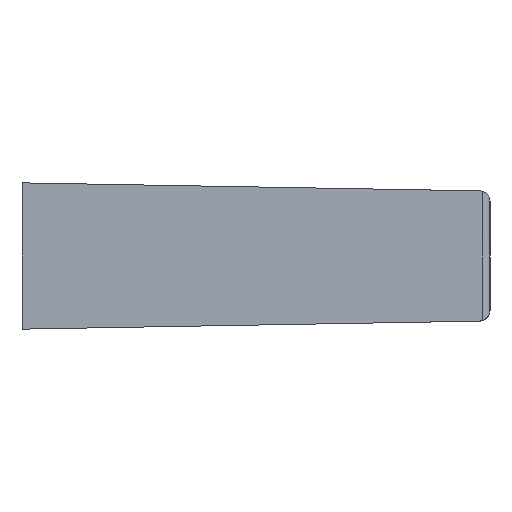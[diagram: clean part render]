
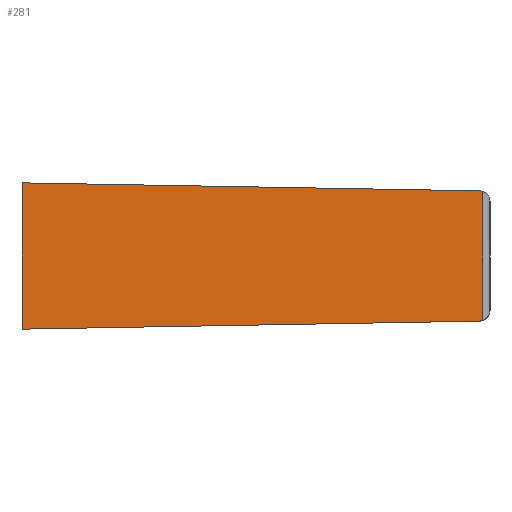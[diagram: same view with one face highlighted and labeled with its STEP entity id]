
A CAD part, left-side view. The second image highlights one B-rep face of the part: STEP entity #281.
In plain terms, the highlighted planar face has unit normal (-0.999, -0.035, 0).
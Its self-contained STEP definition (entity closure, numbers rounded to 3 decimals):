
#207 = EDGE_CURVE( '', #313, #339, #457, .T. );
#211 = EDGE_CURVE( '', #269, #315, #461, .T. );
#213 = EDGE_CURVE( '', #315, #221, #463, .T. );
#221 = VERTEX_POINT( '', #472 );
#253 = EDGE_CURVE( '', #343, #339, #510, .T. );
#269 = VERTEX_POINT( '', #527 );
#277 = EDGE_CURVE( '', #343, #269, #535, .T. );
#281 = ADVANCED_FACE( '', ( #539 ), #540, .T. );
#313 = VERTEX_POINT( '', #576 );
#315 = VERTEX_POINT( '', #578 );
#317 = EDGE_CURVE( '', #221, #313, #580, .T. );
#339 = VERTEX_POINT( '', #602 );
#343 = VERTEX_POINT( '', #606 );
#457 = ELLIPSE( '', #761, 0.75, 0.75 );
#461 = LINE( '', #766, #767 );
#463 = LINE( '', #770, #771 );
#472 = CARTESIAN_POINT( '', ( -5., 0., -5. ) );
#510 = LINE( '', #837, #838 );
#527 = CARTESIAN_POINT( '', ( -3.908, -31.263, 4.454 ) );
#535 = ELLIPSE( '', #873, 0.75, 0.75 );
#539 = FACE_OUTER_BOUND( '', #877, .T. );
#540 = PLANE( '', #878 );
#576 = CARTESIAN_POINT( '', ( -3.908, -31.263, -4.454 ) );
#578 = CARTESIAN_POINT( '', ( -5., 0., 5. ) );
#580 = LINE( '', #946, #947 );
#602 = CARTESIAN_POINT( '', ( -3.899, -31.517, -4.405 ) );
#606 = CARTESIAN_POINT( '', ( -3.899, -31.517, 4.405 ) );
#761 = AXIS2_PLACEMENT_3D( '', #1093, #1094, #1095 );
#766 = CARTESIAN_POINT( '', ( -4.329, -19.221, 4.664 ) );
#767 = VECTOR( '', #1096, 1. );
#770 = CARTESIAN_POINT( '', ( -5., 0., 5. ) );
#771 = VECTOR( '', #1097, 1. );
#837 = CARTESIAN_POINT( '', ( -3.899, -31.517, 5. ) );
#838 = VECTOR( '', #1165, 1. );
#873 = AXIS2_PLACEMENT_3D( '', #1183, #1184, #1185 );
#877 = EDGE_LOOP( '', ( #1187, #1188, #1189, #1190, #1191, #1192 ) );
#878 = AXIS2_PLACEMENT_3D( '', #1193, #1194, #1195 );
#946 = CARTESIAN_POINT( '', ( -4.871, -3.696, -4.935 ) );
#947 = VECTOR( '', #1242, 1. );
#1093 = CARTESIAN_POINT( '', ( -3.909, -31.25, -3.704 ) );
#1094 = DIRECTION( '', ( -0.999, -0.035, 0. ) );
#1095 = DIRECTION( '', ( 0.035, -0.999, 0. ) );
#1096 = DIRECTION( '', ( -0.035, 0.999, 0.017 ) );
#1097 = DIRECTION( '', ( 0., 0., -1. ) );
#1165 = DIRECTION( '', ( 0., 0., -1. ) );
#1183 = CARTESIAN_POINT( '', ( -3.909, -31.25, 3.704 ) );
#1184 = DIRECTION( '', ( -0.999, -0.035, 0. ) );
#1185 = DIRECTION( '', ( 0.035, -0.999, 0. ) );
#1187 = ORIENTED_EDGE( '', *, *, #211, .T. );
#1188 = ORIENTED_EDGE( '', *, *, #213, .T. );
#1189 = ORIENTED_EDGE( '', *, *, #317, .T. );
#1190 = ORIENTED_EDGE( '', *, *, #207, .T. );
#1191 = ORIENTED_EDGE( '', *, *, #253, .F. );
#1192 = ORIENTED_EDGE( '', *, *, #277, .T. );
#1193 = CARTESIAN_POINT( '', ( -5., 0., 5. ) );
#1194 = DIRECTION( '', ( -0.999, -0.035, 0. ) );
#1195 = DIRECTION( '', ( -0.035, 0.999, 0. ) );
#1242 = DIRECTION( '', ( 0.035, -0.999, 0.017 ) );
